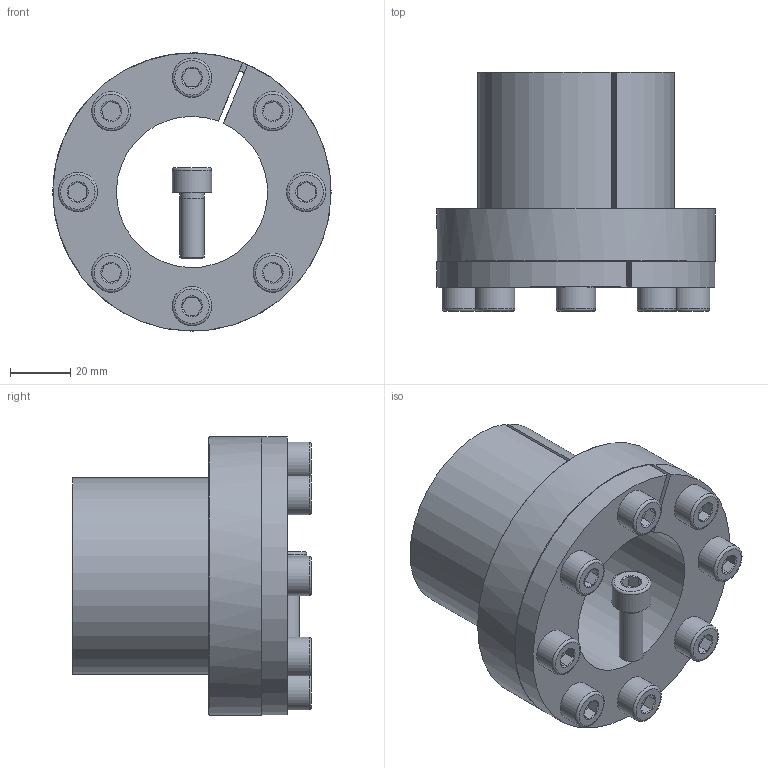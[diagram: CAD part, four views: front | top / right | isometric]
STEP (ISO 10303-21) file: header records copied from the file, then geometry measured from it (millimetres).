
FILE_DESCRIPTION( ( 'Unknown' ), '1' );
FILE_NAME( 'C:/Dokumente und Einstellungen/Sven/Desktop/homepage/cad - homepage/KBS80/KBS 80 - 50 x 65.stp', 'Unknown', ( 'Unknown' ), ( 'Unknown' ), 'XStep 1.0', 'Unknown', ' ' );
FILE_SCHEMA( ( 'automotive_design' ) );
Length unit declared in the file: millimetre
Products named in the file (10): Assem1; KBS 80 - 50 x 65; ISO EN DIN 4762 M8x22; ISO EN DIN 4762 M8x22-oa0; ISO EN DIN 4762 M8x22-oa1; ISO EN DIN 4762 M8x22-oa2; ISO EN DIN 4762 M8x22-oa3; ISO EN DIN 4762 M8x22-oa4; ISO EN DIN 4762 M8x22-oa5; ISO EN DIN 4762 M8x22-oa6
Bounding box: 92 x 79 x 92 mm (x, y, z)
Volume: 372819.5 mm3; surface area: 105899.6 mm2
Topology: 18 solids, 18 shells, 456 faces, 854 edges, 496 vertices
Faces by surface type: plane 208, cone 126, cylinder 90, torus 32
Full cylindrical faces by diameter (mm): 7 x16, 8 x48, 13 x16, 92 x2
Entity records: 5767 total; most frequent: CARTESIAN_POINT 1201, DIRECTION 932, ORIENTED_EDGE 682, AXIS2_PLACEMENT_3D 409, EDGE_LOOP 345, EDGE_CURVE 341, FACE_OUTER_BOUND 285, VERTEX_POINT 230
